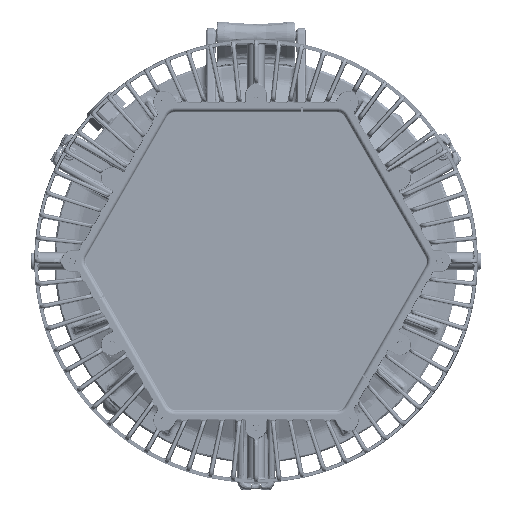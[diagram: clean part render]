
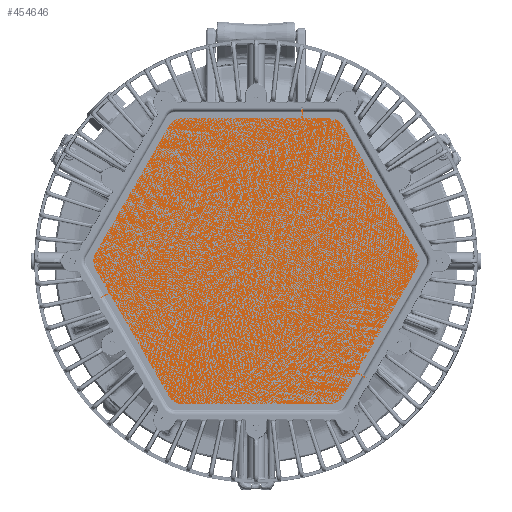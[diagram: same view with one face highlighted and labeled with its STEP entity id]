
A CAD part, front view. The second image highlights one B-rep face of the part: STEP entity #454646.
In plain terms, the highlighted planar face has unit normal (0, -1, 0) as drawn and (0, 1, 0) by its records, which use the part's own axes.
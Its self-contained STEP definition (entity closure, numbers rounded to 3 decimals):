
#454325=CARTESIAN_POINT('',(-4.845,0.125,2.797));
#454326=DIRECTION('',(0.,1.,0.));
#454327=DIRECTION('',(-1.,0.,0.));
#454328=AXIS2_PLACEMENT_3D('',#454325,#454326,#454327);
#454330=DIRECTION('',(0.,0.,1.));
#454331=VECTOR('',#454330,5.595);
#454332=CARTESIAN_POINT('',(-5.5,0.125,-2.797));
#454333=LINE('',#454332,#454331);
#454334=CARTESIAN_POINT('',(-4.845,0.125,-2.797));
#454335=DIRECTION('',(0.,1.,0.));
#454336=DIRECTION('',(-0.5,0.,-0.866));
#454337=AXIS2_PLACEMENT_3D('',#454334,#454335,#454336);
#454339=DIRECTION('',(-0.866,0.,0.5));
#454340=VECTOR('',#454339,5.595);
#454341=CARTESIAN_POINT('',(-0.328,0.125,-6.162));
#454342=LINE('',#454341,#454340);
#454343=CARTESIAN_POINT('',(0.,0.125,-5.595));
#454344=DIRECTION('',(0.,1.,0.));
#454345=DIRECTION('',(0.5,0.,-0.866));
#454346=AXIS2_PLACEMENT_3D('',#454343,#454344,#454345);
#454348=DIRECTION('',(-0.866,0.,-0.5));
#454349=VECTOR('',#454348,5.595);
#454350=CARTESIAN_POINT('',(5.173,0.125,-3.365));
#454351=LINE('',#454350,#454349);
#454352=CARTESIAN_POINT('',(4.845,0.125,-2.797));
#454353=DIRECTION('',(0.,1.,0.));
#454354=DIRECTION('',(1.,0.,0.));
#454355=AXIS2_PLACEMENT_3D('',#454352,#454353,#454354);
#454357=DIRECTION('',(0.,0.,-1.));
#454358=VECTOR('',#454357,5.595);
#454359=CARTESIAN_POINT('',(5.5,0.125,2.797));
#454360=LINE('',#454359,#454358);
#454361=CARTESIAN_POINT('',(4.845,0.125,2.797));
#454362=DIRECTION('',(0.,1.,0.));
#454363=DIRECTION('',(0.5,0.,0.866));
#454364=AXIS2_PLACEMENT_3D('',#454361,#454362,#454363);
#454366=DIRECTION('',(0.866,0.,-0.5));
#454367=VECTOR('',#454366,5.595);
#454368=CARTESIAN_POINT('',(0.328,0.125,6.162));
#454369=LINE('',#454368,#454367);
#454370=CARTESIAN_POINT('',(0.,0.125,5.595));
#454371=DIRECTION('',(0.,1.,0.));
#454372=DIRECTION('',(-0.5,0.,0.866));
#454373=AXIS2_PLACEMENT_3D('',#454370,#454371,#454372);
#454375=DIRECTION('',(0.866,0.,0.5));
#454376=VECTOR('',#454375,5.595);
#454377=CARTESIAN_POINT('',(-5.173,0.125,3.365));
#454378=LINE('',#454377,#454376);
#454383=CARTESIAN_POINT('',(-5.5,0.125,2.797));
#454384=VERTEX_POINT('',#454383);
#454385=CARTESIAN_POINT('',(-5.173,0.125,3.365));
#454386=VERTEX_POINT('',#454385);
#454391=CARTESIAN_POINT('',(-5.173,0.125,-3.365));
#454392=VERTEX_POINT('',#454391);
#454393=CARTESIAN_POINT('',(-5.5,0.125,-2.797));
#454394=VERTEX_POINT('',#454393);
#454399=CARTESIAN_POINT('',(0.328,0.125,-6.162));
#454400=VERTEX_POINT('',#454399);
#454401=CARTESIAN_POINT('',(-0.328,0.125,-6.162));
#454402=VERTEX_POINT('',#454401);
#454407=CARTESIAN_POINT('',(5.5,0.125,-2.797));
#454408=VERTEX_POINT('',#454407);
#454409=CARTESIAN_POINT('',(5.173,0.125,-3.365));
#454410=VERTEX_POINT('',#454409);
#454415=CARTESIAN_POINT('',(5.173,0.125,3.365));
#454416=VERTEX_POINT('',#454415);
#454417=CARTESIAN_POINT('',(5.5,0.125,2.797));
#454418=VERTEX_POINT('',#454417);
#454423=CARTESIAN_POINT('',(-0.328,0.125,6.162));
#454424=VERTEX_POINT('',#454423);
#454425=CARTESIAN_POINT('',(0.328,0.125,6.162));
#454426=VERTEX_POINT('',#454425);
#454627=CARTESIAN_POINT('',(0.,0.125,0.));
#454628=DIRECTION('',(0.,1.,0.));
#454629=DIRECTION('',(1.,0.,0.));
#454630=AXIS2_PLACEMENT_3D('',#454627,#454628,#454629);
#454631=PLANE('',#454630);
#454632=ORIENTED_EDGE('',*,*,#454467,.F.);
#454633=ORIENTED_EDGE('',*,*,#454483,.F.);
#454634=ORIENTED_EDGE('',*,*,#454496,.F.);
#454635=ORIENTED_EDGE('',*,*,#454511,.F.);
#454636=ORIENTED_EDGE('',*,*,#454524,.F.);
#454637=ORIENTED_EDGE('',*,*,#454539,.F.);
#454638=ORIENTED_EDGE('',*,*,#454552,.F.);
#454639=ORIENTED_EDGE('',*,*,#454567,.F.);
#454640=ORIENTED_EDGE('',*,*,#454580,.F.);
#454641=ORIENTED_EDGE('',*,*,#454595,.F.);
#454642=ORIENTED_EDGE('',*,*,#454608,.F.);
#454643=ORIENTED_EDGE('',*,*,#454620,.F.);
#454644=EDGE_LOOP('',(#454632,#454633,#454634,#454635,#454636,#454637,#454638,
#454639,#454640,#454641,#454642,#454643));
#454645=FACE_OUTER_BOUND('',#454644,.F.);
#454646=ADVANCED_FACE('',(#454645),#454631,.T.);
#454329=CIRCLE('',#454328,0.655);
#454338=CIRCLE('',#454337,0.655);
#454347=CIRCLE('',#454346,0.655);
#454356=CIRCLE('',#454355,0.655);
#454365=CIRCLE('',#454364,0.655);
#454374=CIRCLE('',#454373,0.655);
#454467=EDGE_CURVE('',#454384,#454386,#454329,.T.);
#454483=EDGE_CURVE('',#454394,#454384,#454333,.T.);
#454496=EDGE_CURVE('',#454392,#454394,#454338,.T.);
#454511=EDGE_CURVE('',#454402,#454392,#454342,.T.);
#454524=EDGE_CURVE('',#454400,#454402,#454347,.T.);
#454539=EDGE_CURVE('',#454410,#454400,#454351,.T.);
#454552=EDGE_CURVE('',#454408,#454410,#454356,.T.);
#454567=EDGE_CURVE('',#454418,#454408,#454360,.T.);
#454580=EDGE_CURVE('',#454416,#454418,#454365,.T.);
#454595=EDGE_CURVE('',#454426,#454416,#454369,.T.);
#454608=EDGE_CURVE('',#454424,#454426,#454374,.T.);
#454620=EDGE_CURVE('',#454386,#454424,#454378,.T.);
